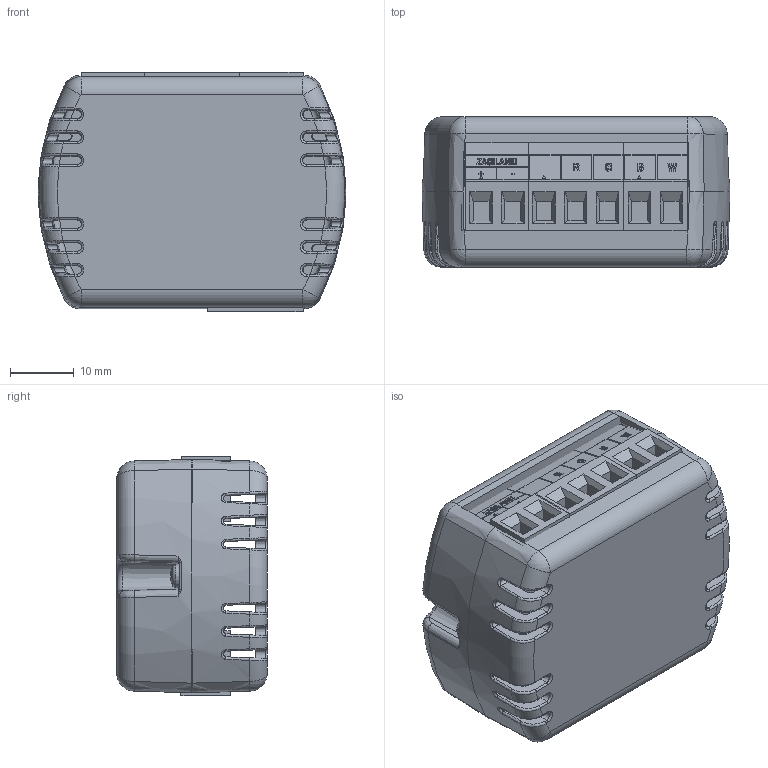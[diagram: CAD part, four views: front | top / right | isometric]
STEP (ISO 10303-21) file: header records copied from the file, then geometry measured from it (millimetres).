
FILE_DESCRIPTION(/* description */ (''),/* implementation_level */ '2;1');
FILE_NAME(/* name */ 'RGB-P4m.step',/* time_stamp */ '2026-02-06T14:04:14+01:00',/* author */ (''),/* organization */ (''),/* preprocessor_version */ 'ST-DEVELOPER v20.1',/* originating_system */ 'Autodesk Translation Framework v14.24.0.0',/* authorisation */ '');
FILE_SCHEMA (('AUTOMOTIVE_DESIGN { 1 0 10303 214 3 1 1 }'));
Length unit declared in the file: millimetre
Products named in the file (7): RGB-P4m; OP-1010-B; OP-1010-A; DG128-5.0-02P-14-00AH; DG128-5.0-03P-14-00AH; ISO 7049 - ST2.2 x 8 - F - H Steel 4.6 Plain; Komponent1
Assembly tree (9 placements, depth 2):
  RGB-P4m
    OP-1010-B
    OP-1010-A
    DG128-5.0-02P-14-00AH  x2
    DG128-5.0-03P-14-00AH  x2
    ISO 7049 - ST2.2 x 8 - F - H Steel 4.6 Plain  x2
    Komponent1
Bounding box: 48.27 x 23.6 x 37.53 mm (x, y, z)
Volume: 14413.9 mm3; surface area: 17300.8 mm2
Topology: 30 solids, 30 shells, 3204 faces, 8614 edges, 5653 vertices
Faces by surface type: plane 1939, bspline 988, torus 102, cylinder 97, cone 64, sphere 14
Full cylindrical faces by diameter (mm): 2.143 x2, 2.17 x2, 4 x10, 4.1 x20
Entity records: 96127 total; most frequent: CARTESIAN_POINT 39496, ORIENTED_EDGE 12798, DIRECTION 9259, EDGE_CURVE 6399, LINE 4365, VECTOR 4365, VERTEX_POINT 4193, EDGE_LOOP 2556
